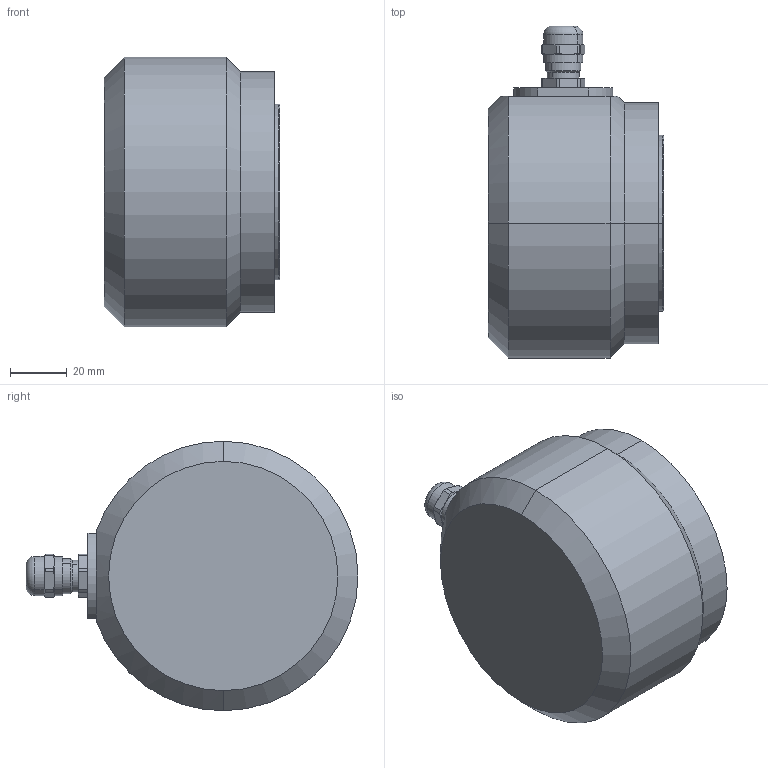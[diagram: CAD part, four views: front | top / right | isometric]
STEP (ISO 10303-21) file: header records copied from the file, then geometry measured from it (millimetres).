
FILE_DESCRIPTION (( 'STEP AP214' ), '1' );
FILE_NAME ('Drawing-OC-9-CR-1120-4NS-NNN12T-A.STEP', '2016-04-12T08:42:42', ( '' ), ( '' ), 'SwSTEP 2.0', 'SolidWorks 2015', '' );
FILE_SCHEMA (( 'AUTOMOTIVE_DESIGN' ));
Length unit declared in the file: millimetre
Products named in the file (1): Drawing-OC-9-CR-1120-4NS-NNN12T-A
Bounding box: 62 x 117.04 x 95 mm (x, y, z)
Surface area: 41906.7 mm2 (no closed solid volume)
Topology: 0 solids, 10 shells, 170 faces, 463 edges, 292 vertices
Faces by surface type: cylinder 61, plane 52, cone 49, bspline 6, torus 2
Entity records: 7678 total; most frequent: CARTESIAN_POINT 1528, DIRECTION 945, ORIENTED_EDGE 805, EDGE_CURVE 455, AXIS2_PLACEMENT_3D 367, VERTEX_POINT 292, VECTOR 211, LINE 211
